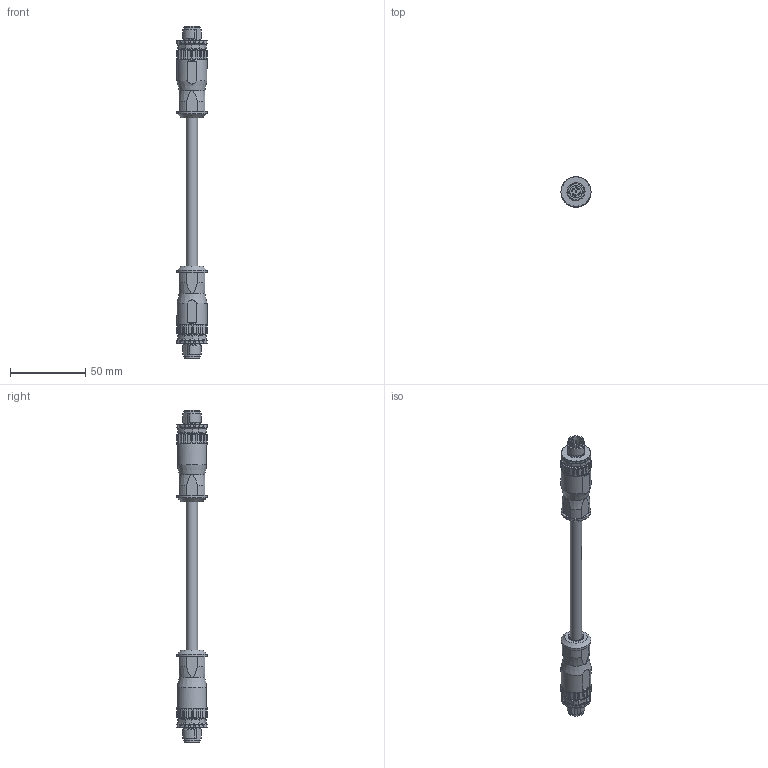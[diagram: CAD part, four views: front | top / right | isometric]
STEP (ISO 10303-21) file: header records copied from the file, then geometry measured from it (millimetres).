
FILE_DESCRIPTION(/* description */ (''),/* implementation_level */ '2;1');
FILE_NAME(/* name */ 'ZK2021_6161-0xxx.stp',/* time_stamp */ '2026-07-22T13:57:23+02:00',/* author */ ('JoshuaW'),/* organization */ (''),/* preprocessor_version */ 'ST-DEVELOPER v20.1',/* originating_system */ 'Autodesk Inventor 2026',/* authorisation */ '');
FILE_SCHEMA (('AUTOMOTIVE_DESIGN { 1 0 10303 214 3 1 1 }'));
Length unit declared in the file: millimetre
Products named in the file (1): 0000038147_ZK2021_6161-0xxx_web
Bounding box: 20 x 20 x 221 mm (x, y, z)
Volume: 34142.8 mm3; surface area: 11549.4 mm2
Topology: 1 solids, 1 shells, 1309 faces, 3683 edges, 2440 vertices
Faces by surface type: plane 1080, cylinder 135, bspline 62, cone 26, torus 6
Full cylindrical faces by diameter (mm): 0.5 x2, 1.01 x10, 7.5 x1, 8.3 x2, 10.5 x2, 10.8 x2, 16.2 x2, 20 x4
Entity records: 42356 total; most frequent: CARTESIAN_POINT 9137, ORIENTED_EDGE 7366, DIRECTION 6237, EDGE_CURVE 3683, LINE 3001, VECTOR 3001, VERTEX_POINT 2440, AXIS2_PLACEMENT_3D 1618
